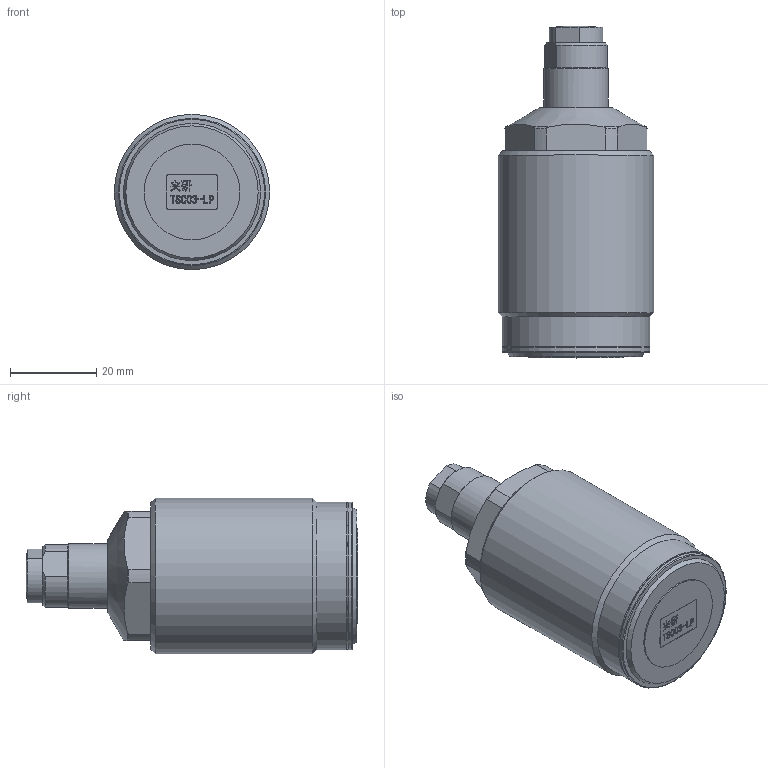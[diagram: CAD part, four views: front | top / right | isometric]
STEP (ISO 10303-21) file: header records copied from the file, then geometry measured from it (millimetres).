
FILE_DESCRIPTION(/* description */ (''),/* implementation_level */ '2;1');
FILE_NAME(/* name */ 'TSC03-LP.stp',/* time_stamp */ '2022-05-04T14:51:59+08:00',/* author */ (''),/* organization */ (''),/* preprocessor_version */ 'ST-DEVELOPER v16.7',/* originating_system */ 'SIEMENS PLM Software NX 12.0',/* authorisation */ '');
FILE_SCHEMA (('AUTOMOTIVE_DESIGN { 1 0 10303 214 3 1 1 1 }'));
Length unit declared in the file: millimetre
Products named in the file (1): TSC03-LP
Bounding box: 36 x 76.92 x 36 mm (x, y, z)
Volume: 56657.8 mm3; surface area: 11397.1 mm2
Topology: 3 solids, 3 shells, 243 faces, 616 edges, 404 vertices
Faces by surface type: plane 128, extrusion 66, cylinder 25, torus 13, cone 10, sphere 1
Full cylindrical faces by diameter (mm): 5 x1, 7.8 x1, 10 x2, 10.3 x1, 15 x2, 22.16 x1, 34.1 x2, 36 x1
Entity records: 9646 total; most frequent: CARTESIAN_POINT 2894, ORIENTED_EDGE 1172, DIRECTION 928, EDGE_CURVE 586, VECTOR 424, VERTEX_POINT 402, LINE 358, EDGE_LOOP 296
